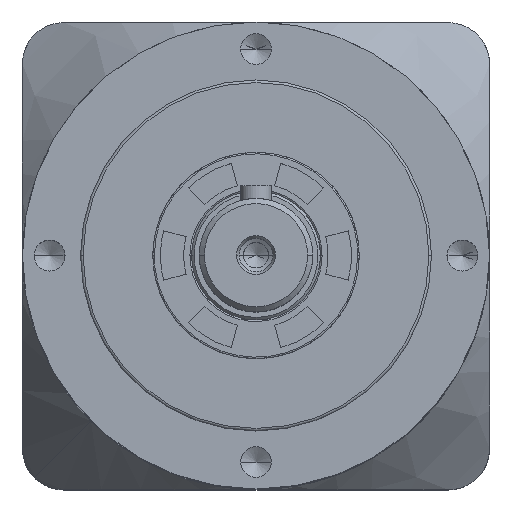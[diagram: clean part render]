
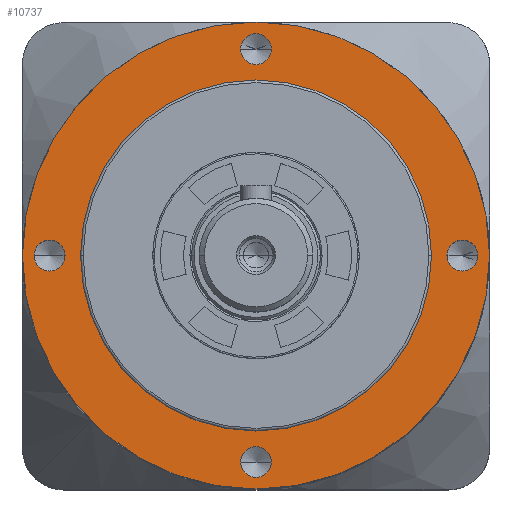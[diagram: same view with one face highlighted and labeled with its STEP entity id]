
A CAD part, top view. The second image highlights one B-rep face of the part: STEP entity #10737.
In plain terms, the highlighted planar face has unit normal (0, 0, 1).
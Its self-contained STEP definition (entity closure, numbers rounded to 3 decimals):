
#44 = ORIENTED_EDGE ( 'NONE', *, *, #32101, .T. ) ;
#113 = AXIS2_PLACEMENT_3D ( 'NONE', #8931, #1606, #4013 ) ;
#1163 = EDGE_CURVE ( 'NONE', #30365, #12940, #19022, .T. ) ;
#1183 = AXIS2_PLACEMENT_3D ( 'NONE', #32397, #22556, #10003 ) ;
#1468 = CARTESIAN_POINT ( 'NONE',  ( -34., 0., 18.1 ) ) ;
#1606 = DIRECTION ( 'NONE',  ( 0., 0., 1. ) ) ;
#1970 = CARTESIAN_POINT ( 'NONE',  ( 3., 40., 18.1 ) ) ;
#2085 = CARTESIAN_POINT ( 'NONE',  ( 43., 0., 18.1 ) ) ;
#3372 = CARTESIAN_POINT ( 'NONE',  ( 45.25, 0., 18.1 ) ) ;
#3476 = CARTESIAN_POINT ( 'NONE',  ( -3., 40., 18.1 ) ) ;
#3498 = AXIS2_PLACEMENT_3D ( 'NONE', #27227, #7234, #32047 ) ;
#3699 = DIRECTION ( 'NONE',  ( 0., 0., 1. ) ) ;
#4010 = ORIENTED_EDGE ( 'NONE', *, *, #6844, .F. ) ;
#4013 = DIRECTION ( 'NONE',  ( 1., 0., 0. ) ) ;
#4170 = CARTESIAN_POINT ( 'NONE',  ( -43., 0., 18.1 ) ) ;
#5088 = AXIS2_PLACEMENT_3D ( 'NONE', #14377, #29185, #26868 ) ;
#5121 = DIRECTION ( 'NONE',  ( 1., 0., 0. ) ) ;
#5369 = EDGE_CURVE ( 'NONE', #20078, #13980, #7882, .T. ) ;
#6000 = FACE_BOUND ( 'NONE', #14304, .T. ) ;
#6347 = CIRCLE ( 'NONE', #113, 3. ) ;
#6439 = DIRECTION ( 'NONE',  ( 1., 0., 0. ) ) ;
#6844 = EDGE_CURVE ( 'NONE', #12940, #30365, #31857, .T. ) ;
#7234 = DIRECTION ( 'NONE',  ( 0., 0., 1. ) ) ;
#7427 = ORIENTED_EDGE ( 'NONE', *, *, #19418, .F. ) ;
#7519 = EDGE_CURVE ( 'NONE', #13980, #20078, #16146, .T. ) ;
#7626 = DIRECTION ( 'NONE',  ( 1., 0., 0. ) ) ;
#7774 = DIRECTION ( 'NONE',  ( 0., 0., 1. ) ) ;
#7859 = DIRECTION ( 'NONE',  ( 0., 0., 1. ) ) ;
#7882 = CIRCLE ( 'NONE', #31331, 3. ) ;
#8096 = CARTESIAN_POINT ( 'NONE',  ( 0., 0., 18.1 ) ) ;
#8372 = ORIENTED_EDGE ( 'NONE', *, *, #19015, .T. ) ;
#8375 = CARTESIAN_POINT ( 'NONE',  ( 0., 0., 18.1 ) ) ;
#8484 = DIRECTION ( 'NONE',  ( 1., 0., 0. ) ) ;
#8698 = CARTESIAN_POINT ( 'NONE',  ( -3., -40., 18.1 ) ) ;
#8931 = CARTESIAN_POINT ( 'NONE',  ( 40., 0., 18.1 ) ) ;
#8989 = ORIENTED_EDGE ( 'NONE', *, *, #23226, .F. ) ;
#9590 = ORIENTED_EDGE ( 'NONE', *, *, #16708, .F. ) ;
#9755 = CARTESIAN_POINT ( 'NONE',  ( 34., 0., 18.1 ) ) ;
#10003 = DIRECTION ( 'NONE',  ( 1., 0., 0. ) ) ;
#10255 = ORIENTED_EDGE ( 'NONE', *, *, #7519, .F. ) ;
#10404 = VERTEX_POINT ( 'NONE', #26885 ) ;
#10621 = CARTESIAN_POINT ( 'NONE',  ( -37., 0., 18.1 ) ) ;
#10737 = ADVANCED_FACE ( 'NONE', ( #6000, #29585, #31929, #17002, #27608, #20946 ), #10859, .T. ) ;
#10859 = PLANE ( 'NONE',  #12060 ) ;
#11406 = VERTEX_POINT ( 'NONE', #2085 ) ;
#12060 = AXIS2_PLACEMENT_3D ( 'NONE', #20646, #15490, #30730 ) ;
#12508 = DIRECTION ( 'NONE',  ( 0., 0., 1. ) ) ;
#12940 = VERTEX_POINT ( 'NONE', #1468 ) ;
#13037 = AXIS2_PLACEMENT_3D ( 'NONE', #17626, #30135, #7626 ) ;
#13145 = DIRECTION ( 'NONE',  ( 0., 0., 1. ) ) ;
#13826 = DIRECTION ( 'NONE',  ( 1., 0., 0. ) ) ;
#13980 = VERTEX_POINT ( 'NONE', #1970 ) ;
#14304 = EDGE_LOOP ( 'NONE', ( #24840, #7427 ) ) ;
#14377 = CARTESIAN_POINT ( 'NONE',  ( -40., 0., 18.1 ) ) ;
#14878 = CIRCLE ( 'NONE', #13037, 3. ) ;
#15176 = ORIENTED_EDGE ( 'NONE', *, *, #23125, .F. ) ;
#15305 = AXIS2_PLACEMENT_3D ( 'NONE', #8375, #13145, #8484 ) ;
#15315 = ORIENTED_EDGE ( 'NONE', *, *, #29505, .F. ) ;
#15490 = DIRECTION ( 'NONE',  ( 0., 0., 1. ) ) ;
#15651 = CIRCLE ( 'NONE', #23328, 45.25 ) ;
#16146 = CIRCLE ( 'NONE', #29472, 3. ) ;
#16708 = EDGE_CURVE ( 'NONE', #30963, #27332, #23982, .T. ) ;
#17002 = FACE_BOUND ( 'NONE', #28956, .T. ) ;
#17626 = CARTESIAN_POINT ( 'NONE',  ( 40., 0., 18.1 ) ) ;
#18121 = VERTEX_POINT ( 'NONE', #3372 ) ;
#19015 = EDGE_CURVE ( 'NONE', #18121, #31989, #15651, .T. ) ;
#19022 = CIRCLE ( 'NONE', #22064, 34. ) ;
#19418 = EDGE_CURVE ( 'NONE', #10404, #11406, #14878, .T. ) ;
#19952 = DIRECTION ( 'NONE',  ( 0., 0., 1. ) ) ;
#19988 = CIRCLE ( 'NONE', #15305, 45.25 ) ;
#20078 = VERTEX_POINT ( 'NONE', #3476 ) ;
#20087 = CARTESIAN_POINT ( 'NONE',  ( 0., 0., 18.1 ) ) ;
#20200 = DIRECTION ( 'NONE',  ( 1., 0., 0. ) ) ;
#20275 = EDGE_LOOP ( 'NONE', ( #9590, #15176 ) ) ;
#20646 = CARTESIAN_POINT ( 'NONE',  ( 0., 0., 18.1 ) ) ;
#20879 = CIRCLE ( 'NONE', #1183, 3. ) ;
#20946 = FACE_OUTER_BOUND ( 'NONE', #27216, .T. ) ;
#21005 = CIRCLE ( 'NONE', #5088, 3. ) ;
#22064 = AXIS2_PLACEMENT_3D ( 'NONE', #25435, #12508, #5121 ) ;
#22556 = DIRECTION ( 'NONE',  ( 0., 0., 1. ) ) ;
#22883 = EDGE_LOOP ( 'NONE', ( #8989, #15315 ) ) ;
#23125 = EDGE_CURVE ( 'NONE', #27332, #30963, #28211, .T. ) ;
#23226 = EDGE_CURVE ( 'NONE', #23744, #31392, #21005, .T. ) ;
#23328 = AXIS2_PLACEMENT_3D ( 'NONE', #20087, #7859, #20200 ) ;
#23744 = VERTEX_POINT ( 'NONE', #10621 ) ;
#23898 = CARTESIAN_POINT ( 'NONE',  ( 0., 40., 18.1 ) ) ;
#23982 = CIRCLE ( 'NONE', #3498, 3. ) ;
#24840 = ORIENTED_EDGE ( 'NONE', *, *, #28703, .F. ) ;
#25435 = CARTESIAN_POINT ( 'NONE',  ( 0., 0., 18.1 ) ) ;
#26081 = CARTESIAN_POINT ( 'NONE',  ( -45.25, 0., 18.1 ) ) ;
#26868 = DIRECTION ( 'NONE',  ( 1., 0., 0. ) ) ;
#26885 = CARTESIAN_POINT ( 'NONE',  ( 37., 0., 18.1 ) ) ;
#27216 = EDGE_LOOP ( 'NONE', ( #8372, #44 ) ) ;
#27227 = CARTESIAN_POINT ( 'NONE',  ( 0., -40., 18.1 ) ) ;
#27332 = VERTEX_POINT ( 'NONE', #8698 ) ;
#27608 = FACE_BOUND ( 'NONE', #31327, .T. ) ;
#28211 = CIRCLE ( 'NONE', #28668, 3. ) ;
#28240 = CARTESIAN_POINT ( 'NONE',  ( 3., -40., 18.1 ) ) ;
#28668 = AXIS2_PLACEMENT_3D ( 'NONE', #28852, #31255, #13826 ) ;
#28703 = EDGE_CURVE ( 'NONE', #11406, #10404, #6347, .T. ) ;
#28852 = CARTESIAN_POINT ( 'NONE',  ( 0., -40., 18.1 ) ) ;
#28956 = EDGE_LOOP ( 'NONE', ( #10255, #30518 ) ) ;
#29185 = DIRECTION ( 'NONE',  ( 0., 0., 1. ) ) ;
#29472 = AXIS2_PLACEMENT_3D ( 'NONE', #23898, #3699, #6439 ) ;
#29505 = EDGE_CURVE ( 'NONE', #31392, #23744, #20879, .T. ) ;
#29585 = FACE_BOUND ( 'NONE', #20275, .T. ) ;
#30135 = DIRECTION ( 'NONE',  ( 0., 0., 1. ) ) ;
#30136 = CARTESIAN_POINT ( 'NONE',  ( 0., 40., 18.1 ) ) ;
#30246 = DIRECTION ( 'NONE',  ( 1., 0., 0. ) ) ;
#30365 = VERTEX_POINT ( 'NONE', #9755 ) ;
#30518 = ORIENTED_EDGE ( 'NONE', *, *, #5369, .F. ) ;
#30730 = DIRECTION ( 'NONE',  ( 1., 0., 0. ) ) ;
#30734 = DIRECTION ( 'NONE',  ( 1., 0., 0. ) ) ;
#30919 = ORIENTED_EDGE ( 'NONE', *, *, #1163, .F. ) ;
#30963 = VERTEX_POINT ( 'NONE', #28240 ) ;
#31255 = DIRECTION ( 'NONE',  ( 0., 0., 1. ) ) ;
#31327 = EDGE_LOOP ( 'NONE', ( #4010, #30919 ) ) ;
#31331 = AXIS2_PLACEMENT_3D ( 'NONE', #30136, #19952, #30246 ) ;
#31392 = VERTEX_POINT ( 'NONE', #4170 ) ;
#31577 = AXIS2_PLACEMENT_3D ( 'NONE', #8096, #7774, #30734 ) ;
#31857 = CIRCLE ( 'NONE', #31577, 34. ) ;
#31929 = FACE_BOUND ( 'NONE', #22883, .T. ) ;
#31989 = VERTEX_POINT ( 'NONE', #26081 ) ;
#32047 = DIRECTION ( 'NONE',  ( 1., 0., 0. ) ) ;
#32101 = EDGE_CURVE ( 'NONE', #31989, #18121, #19988, .T. ) ;
#32397 = CARTESIAN_POINT ( 'NONE',  ( -40., 0., 18.1 ) ) ;
